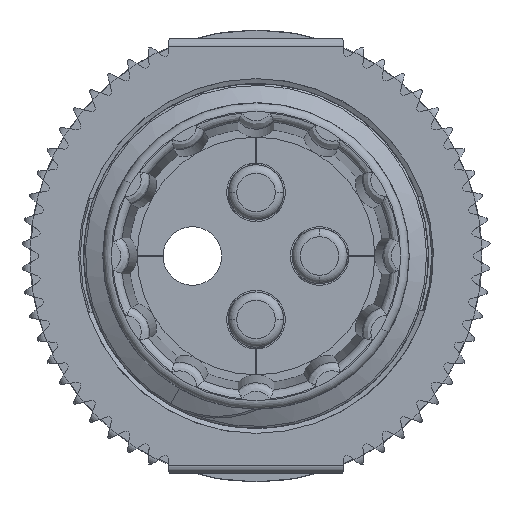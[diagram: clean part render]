
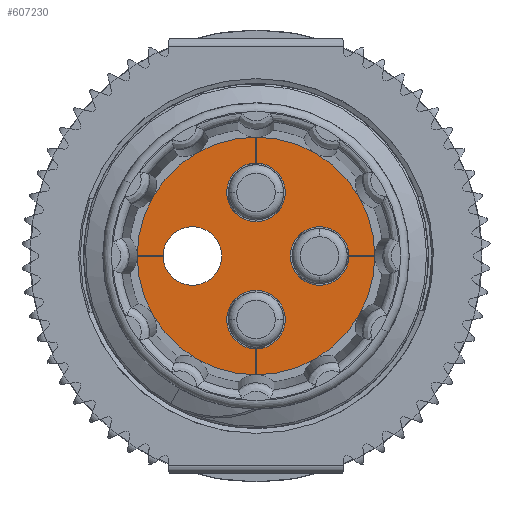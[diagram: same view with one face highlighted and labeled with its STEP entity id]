
A CAD part, left-side view. The second image highlights one B-rep face of the part: STEP entity #607230.
In plain terms, the highlighted planar face has unit normal (-1, 0, 0) as drawn and (0, 0, -1) by its records, which use the part's own axes.
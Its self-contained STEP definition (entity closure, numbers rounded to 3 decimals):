
#605800=CARTESIAN_POINT('',(0.,0.,0.));
#605810=DIRECTION('',(0.,0.,1.));
#605820=DIRECTION('',(1.,0.,0.));
#605830=AXIS2_PLACEMENT_3D('',#605800,#605810,#605820);
#605840=PLANE('',#605830);
#605850=CARTESIAN_POINT('',(38.045,0.,0.));
#605860=DIRECTION('',(0.,1.,0.));
#605870=VECTOR('',#605860,1.);
#605880=LINE('',#605850,#605870);
#605890=CARTESIAN_POINT('',(38.045,47.21,0.));
#605900=VERTEX_POINT('',#605890);
#605910=CARTESIAN_POINT('',(38.045,49.66,0.));
#605920=VERTEX_POINT('',#605910);
#605930=EDGE_CURVE('',#605900,#605920,#605880,.T.);
#605940=ORIENTED_EDGE('',*,*,#605930,.T.);
#605950=CARTESIAN_POINT('',(38.04,55.21,0.));
#605960=DIRECTION('',(0.,0.,1.));
#605970=DIRECTION('',(1.,0.,0.));
#605980=AXIS2_PLACEMENT_3D('',#605950,#605960,#605970);
#605990=CIRCLE('',#605980,8.);
#606000=CARTESIAN_POINT('',(46.04,55.205,0.));
#606010=VERTEX_POINT('',#606000);
#606020=EDGE_CURVE('',#605900,#606010,#605990,.T.);
#606030=ORIENTED_EDGE('',*,*,#606020,.F.);
#606040=CARTESIAN_POINT('',(0.,55.205,0.));
#606050=DIRECTION('',(1.,0.,0.));
#606060=VECTOR('',#606050,1.);
#606070=LINE('',#606040,#606060);
#606080=CARTESIAN_POINT('',(43.59,55.205,0.));
#606090=VERTEX_POINT('',#606080);
#606100=EDGE_CURVE('',#606090,#606010,#606070,.T.);
#606110=ORIENTED_EDGE('',*,*,#606100,.T.);
#606120=CARTESIAN_POINT('',(41.84,55.21,0.));
#606130=DIRECTION('',(0.,0.,1.));
#606140=DIRECTION('',(1.,0.,0.));
#606150=AXIS2_PLACEMENT_3D('',#606120,#606130,#606140);
#606160=CIRCLE('',#606150,1.75);
#606170=CARTESIAN_POINT('',(43.59,55.215,0.));
#606180=VERTEX_POINT('',#606170);
#606190=EDGE_CURVE('',#606180,#606090,#606160,.T.);
#606200=ORIENTED_EDGE('',*,*,#606190,.T.);
#606210=CARTESIAN_POINT('',(0.,55.215,0.));
#606220=DIRECTION('',(-1.,0.,0.));
#606230=VECTOR('',#606220,1.);
#606240=LINE('',#606210,#606230);
#606250=CARTESIAN_POINT('',(46.04,55.215,0.));
#606260=VERTEX_POINT('',#606250);
#606270=EDGE_CURVE('',#606260,#606180,#606240,.T.);
#606280=ORIENTED_EDGE('',*,*,#606270,.T.);
#606290=CARTESIAN_POINT('',(38.04,55.21,0.));
#606300=DIRECTION('',(0.,0.,1.));
#606310=DIRECTION('',(1.,0.,0.));
#606320=AXIS2_PLACEMENT_3D('',#606290,#606300,#606310);
#606330=CIRCLE('',#606320,8.);
#606340=CARTESIAN_POINT('',(38.045,63.21,0.));
#606350=VERTEX_POINT('',#606340);
#606360=EDGE_CURVE('',#606260,#606350,#606330,.T.);
#606370=ORIENTED_EDGE('',*,*,#606360,.F.);
#606380=CARTESIAN_POINT('',(38.045,0.,0.));
#606390=DIRECTION('',(0.,1.,0.));
#606400=VECTOR('',#606390,1.);
#606410=LINE('',#606380,#606400);
#606420=CARTESIAN_POINT('',(38.045,60.76,0.));
#606430=VERTEX_POINT('',#606420);
#606440=EDGE_CURVE('',#606430,#606350,#606410,.T.);
#606450=ORIENTED_EDGE('',*,*,#606440,.T.);
#606460=CARTESIAN_POINT('',(38.04,59.01,0.));
#606470=DIRECTION('',(0.,0.,1.));
#606480=DIRECTION('',(1.,0.,0.));
#606490=AXIS2_PLACEMENT_3D('',#606460,#606470,#606480);
#606500=CIRCLE('',#606490,1.75);
#606510=CARTESIAN_POINT('',(38.035,60.76,0.));
#606520=VERTEX_POINT('',#606510);
#606530=EDGE_CURVE('',#606520,#606430,#606500,.T.);
#606540=ORIENTED_EDGE('',*,*,#606530,.T.);
#606550=CARTESIAN_POINT('',(38.035,0.,0.));
#606560=DIRECTION('',(0.,-1.,0.));
#606570=VECTOR('',#606560,1.);
#606580=LINE('',#606550,#606570);
#606590=CARTESIAN_POINT('',(38.035,63.21,0.));
#606600=VERTEX_POINT('',#606590);
#606610=EDGE_CURVE('',#606600,#606520,#606580,.T.);
#606620=ORIENTED_EDGE('',*,*,#606610,.T.);
#606630=CARTESIAN_POINT('',(38.04,55.21,0.));
#606640=DIRECTION('',(0.,0.,1.));
#606650=DIRECTION('',(1.,0.,0.));
#606660=AXIS2_PLACEMENT_3D('',#606630,#606640,#606650);
#606670=CIRCLE('',#606660,8.);
#606680=CARTESIAN_POINT('',(30.04,55.215,0.));
#606690=VERTEX_POINT('',#606680);
#606700=EDGE_CURVE('',#606600,#606690,#606670,.T.);
#606710=ORIENTED_EDGE('',*,*,#606700,.F.);
#606720=CARTESIAN_POINT('',(0.,55.215,0.));
#606730=DIRECTION('',(-1.,0.,0.));
#606740=VECTOR('',#606730,1.);
#606750=LINE('',#606720,#606740);
#606760=CARTESIAN_POINT('',(32.49,55.215,0.));
#606770=VERTEX_POINT('',#606760);
#606780=EDGE_CURVE('',#606770,#606690,#606750,.T.);
#606790=ORIENTED_EDGE('',*,*,#606780,.T.);
#606800=CARTESIAN_POINT('',(34.24,55.21,0.));
#606810=DIRECTION('',(0.,0.,1.));
#606820=DIRECTION('',(1.,0.,0.));
#606830=AXIS2_PLACEMENT_3D('',#606800,#606810,#606820);
#606840=CIRCLE('',#606830,1.75);
#606850=CARTESIAN_POINT('',(32.49,55.205,0.));
#606860=VERTEX_POINT('',#606850);
#606870=EDGE_CURVE('',#606860,#606770,#606840,.T.);
#606880=ORIENTED_EDGE('',*,*,#606870,.T.);
#606890=CARTESIAN_POINT('',(0.,55.205,0.));
#606900=DIRECTION('',(1.,0.,0.));
#606910=VECTOR('',#606900,1.);
#606920=LINE('',#606890,#606910);
#606930=CARTESIAN_POINT('',(30.04,55.205,0.));
#606940=VERTEX_POINT('',#606930);
#606950=EDGE_CURVE('',#606940,#606860,#606920,.T.);
#606960=ORIENTED_EDGE('',*,*,#606950,.T.);
#606970=CARTESIAN_POINT('',(38.04,55.21,0.));
#606980=DIRECTION('',(0.,0.,1.));
#606990=DIRECTION('',(1.,0.,0.));
#607000=AXIS2_PLACEMENT_3D('',#606970,#606980,#606990);
#607010=CIRCLE('',#607000,8.);
#607020=CARTESIAN_POINT('',(38.035,47.21,0.));
#607030=VERTEX_POINT('',#607020);
#607040=EDGE_CURVE('',#606940,#607030,#607010,.T.);
#607050=ORIENTED_EDGE('',*,*,#607040,.F.);
#607060=CARTESIAN_POINT('',(38.035,0.,0.));
#607070=DIRECTION('',(0.,-1.,0.));
#607080=VECTOR('',#607070,1.);
#607090=LINE('',#607060,#607080);
#607100=CARTESIAN_POINT('',(38.035,49.66,0.));
#607110=VERTEX_POINT('',#607100);
#607120=EDGE_CURVE('',#607110,#607030,#607090,.T.);
#607130=ORIENTED_EDGE('',*,*,#607120,.T.);
#607140=CARTESIAN_POINT('',(38.04,51.41,0.));
#607150=DIRECTION('',(0.,0.,1.));
#607160=DIRECTION('',(1.,0.,0.));
#607170=AXIS2_PLACEMENT_3D('',#607140,#607150,#607160);
#607180=CIRCLE('',#607170,1.75);
#607190=EDGE_CURVE('',#605920,#607110,#607180,.T.);
#607200=ORIENTED_EDGE('',*,*,#607190,.T.);
#607210=EDGE_LOOP('',(#607200,#607130,#607050,#606960,#606880,#606790,
#606710,#606620,#606540,#606450,#606370,#606280,#606200,#606110,#606030,
#605940));
#607220=FACE_OUTER_BOUND('',#607210,.T.);
#607230=ADVANCED_FACE('',(#607220),#605840,.F.);
